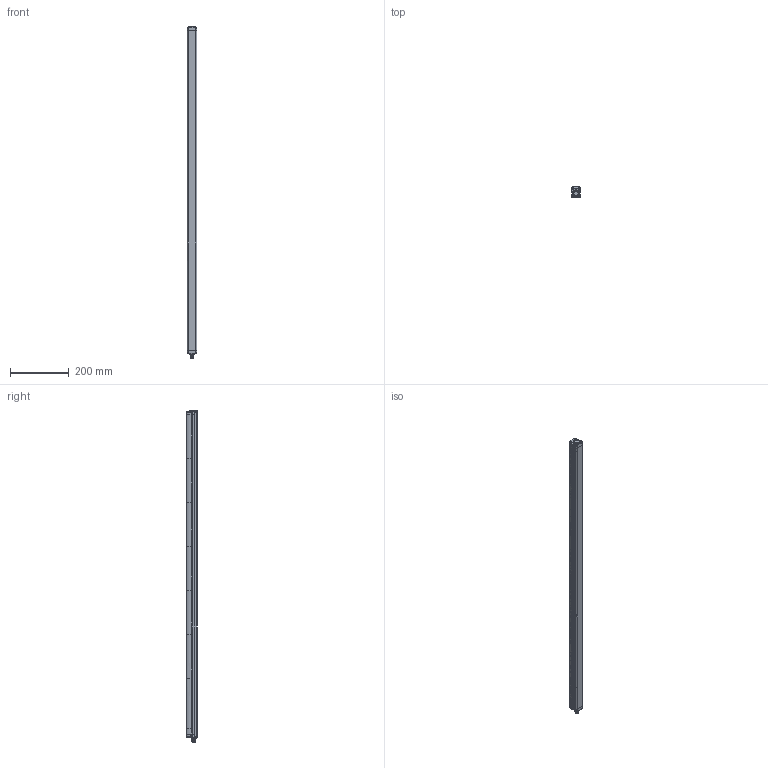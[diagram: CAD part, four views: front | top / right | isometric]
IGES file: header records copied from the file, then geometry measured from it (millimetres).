
Global section: file name: D:\Studi\DSD-0163.igs; preprocessor: I-DEAS 3D IGES Translator 11; date: 20080609.144650; units: millimetre
Bounding box: 32.3 x 36.9 x 1133.24 mm (x, y, z)
Volume: 1126891.8 mm3; surface area: 265021.7 mm2
Topology: 12 solids, 12 shells, 1632 faces, 6355 edges, 5194 vertices
Faces by surface type: bspline 1632
